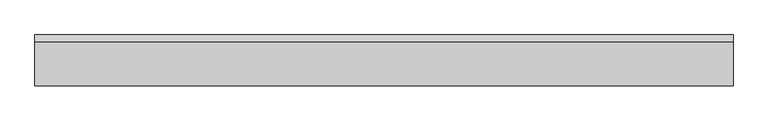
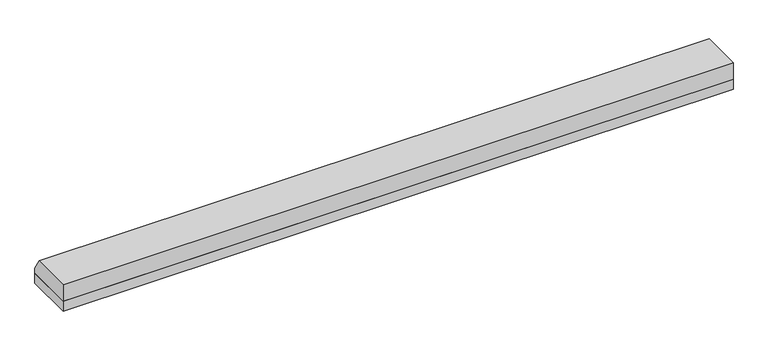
"""IFC4 building model written with IfcOpenShell, lengths in millimetres: proxy geometry, Spinneybeck_ARO Plank 7 : A - 5’-6”  x 3 1/2” x 1 1/4”."""

import ifcopenshell
import ifcopenshell.guid

model = None  # the IFC model being written
_history = None  # IfcOwnerHistory: only IFC2X3 demands one
_inside = {}  # id of a spatial element -> (the spatial element, [elements in it])
_under = {}  # id of a project, library or spatial element -> (it, [spatial elements below it])
_declared = {}  # id of a project -> (the project, [libraries it declares])
_typed = {}  # id of a type object -> (the type object, [elements of that type])
_made_of = {}  # id of a material, layer set ... -> (it, [elements and type objects made of it])


def new_model(schema):
    """Start an empty IFC model of exactly this schema.

    Asked for "IFC4X3", IfcOpenShell would pick the latest addendum, in which some entities
    have other attributes; the version numbers below select the first issue.
    IFC2X3 requires an IfcOwnerHistory on every rooted entity: one is made here for all.
    """
    global model, _history
    if schema == "IFC4X3":
        model = ifcopenshell.file(schema_version=(4, 3, 0, 0))
    else:
        model = ifcopenshell.file(schema=schema)
    _inside.clear()
    _under.clear()
    _declared.clear()
    _typed.clear()
    _made_of.clear()
    _history = None
    if model.schema == "IFC2X3":
        org = make("IfcOrganization", Name="unknown")
        user = make(
            "IfcPersonAndOrganization",
            ThePerson=make("IfcPerson", FamilyName="unknown"),
            TheOrganization=org,
        )
        app = make(
            "IfcApplication",
            ApplicationDeveloper=org,
            Version="unknown",
            ApplicationFullName="unknown",
            ApplicationIdentifier="unknown",
        )
        _history = make(
            "IfcOwnerHistory",
            OwningUser=user,
            OwningApplication=app,
            ChangeAction="ADDED",
            CreationDate=0,
        )
    return model


def make(cls, **values):
    """One entity of the class cls with the attributes given. An attribute that is None is left unset."""
    return model.create_entity(
        cls, **{name: value for name, value in values.items() if value is not None}
    )


def rooted(cls, **values):
    """An entity with a GlobalId (a new one), such as an element, a storey or a relation."""
    return make(cls, GlobalId=ifcopenshell.guid.new(), OwnerHistory=_history, **values)


def si_unit(unit_type, name, prefix=None):
    """IfcSIUnit, for example si_unit("LENGTHUNIT", "METRE", prefix="MILLI")."""
    return make("IfcSIUnit", UnitType=unit_type, Prefix=prefix, Name=name)


def assignment(units):
    """IfcUnitAssignment: the units of a project."""
    return None if units is None else make("IfcUnitAssignment", Units=units)


def point(xyz):
    """IfcCartesianPoint."""
    return None if xyz is None else make("IfcCartesianPoint", Coordinates=xyz)


def direction(xyz):
    """IfcDirection."""
    return None if xyz is None else make("IfcDirection", DirectionRatios=xyz)


def frame(location, z_axis=None, x_axis=None):
    """IfcAxis2Placement3D, a coordinate frame: its origin and axes. An axis left out is left unset."""
    return make(
        "IfcAxis2Placement3D",
        Location=point(location),
        Axis=direction(z_axis),
        RefDirection=direction(x_axis),
    )


def origin():
    """The frame at (0, 0, 0) with its axes left unset."""
    return frame((0.0, 0.0, 0.0))


def origin_with_axes():
    """The frame at (0, 0, 0) with the z axis (0, 0, 1) and the x axis (1, 0, 0) written out."""
    return frame((0.0, 0.0, 0.0), z_axis=(0.0, 0.0, 1.0), x_axis=(1.0, 0.0, 0.0))


def place(relative_to, where):
    """IfcLocalPlacement: puts the frame where relative to a parent placement (None: the world)."""
    return make(
        "IfcLocalPlacement", PlacementRelTo=relative_to, RelativePlacement=where
    )


def context(
    kind, dimensions, precision=None, world=None, true_north=None, identifier=None
):
    """IfcGeometricRepresentationContext, for example the 3D "Model" context."""
    return make(
        "IfcGeometricRepresentationContext",
        ContextIdentifier=identifier,
        ContextType=kind,
        CoordinateSpaceDimension=dimensions,
        Precision=precision,
        WorldCoordinateSystem=world,
        TrueNorth=true_north,
    )


def project(units=None, contexts=None):
    """IfcProject with its units and contexts."""
    return rooted(
        "IfcProject",
        Name="project",
        RepresentationContexts=contexts,
        UnitsInContext=assignment(units),
    )


def spatial(cls, under=None, at=None, **own):
    """A site, building, storey or space (cls), placed at a placement, below another one or the project."""
    s = rooted(cls, ObjectPlacement=at, **own)
    if under is not None:
        _under.setdefault(under.id(), (under, []))[1].append(s)
    return s


def polyline(points):
    """IfcPolyline through the points."""
    return make("IfcPolyline", Points=[point(p) for p in points])


def outline(outer, holes=None, kind="AREA"):
    """IfcArbitraryClosedProfileDef: a profile drawn as a closed curve; with holes, ...WithVoids."""
    if holes is None:
        return make("IfcArbitraryClosedProfileDef", ProfileType=kind, OuterCurve=outer)
    return make(
        "IfcArbitraryProfileDefWithVoids",
        ProfileType=kind,
        OuterCurve=outer,
        InnerCurves=holes,
    )


def extrude(swept, where, along, depth):
    """IfcExtrudedAreaSolid: the profile swept, set in the frame where, extruded along a direction by depth."""
    return make(
        "IfcExtrudedAreaSolid",
        SweptArea=swept,
        Position=where,
        ExtrudedDirection=direction(along),
        Depth=depth,
    )


def shape(context_of_items, identifier, shape_type, items):
    """IfcShapeRepresentation: the items that make up one representation, for example the "Body"."""
    return make(
        "IfcShapeRepresentation",
        ContextOfItems=context_of_items,
        RepresentationIdentifier=identifier,
        RepresentationType=shape_type,
        Items=items,
    )


def source(mapping_origin, context_of_items, identifier, shape_type, items):
    """IfcRepresentationMap: a shape defined once, which mapped items show again and again."""
    return make(
        "IfcRepresentationMap",
        MappingOrigin=mapping_origin,
        MappedRepresentation=shape(context_of_items, identifier, shape_type, items),
    )


def transform(
    local_origin,
    x_axis=None,
    y_axis=None,
    z_axis=None,
    scale=None,
    scale2=None,
    scale3=None,
    uniform=True,
):
    """IfcCartesianTransformationOperator3D, or its non-uniform kind. x_axis, y_axis, z_axis: its Axis1, 2, 3."""
    if uniform:
        return make(
            "IfcCartesianTransformationOperator3D",
            Axis1=direction(x_axis),
            Axis2=direction(y_axis),
            LocalOrigin=point(local_origin),
            Scale=scale,
            Axis3=direction(z_axis),
        )
    return make(
        "IfcCartesianTransformationOperator3DnonUniform",
        Axis1=direction(x_axis),
        Axis2=direction(y_axis),
        LocalOrigin=point(local_origin),
        Scale=scale,
        Axis3=direction(z_axis),
        Scale2=scale2,
        Scale3=scale3,
    )


def mapped(mapping_source, mapping_target):
    """IfcMappedItem: shows the shape of a source again, moved by a transform."""
    return make(
        "IfcMappedItem", MappingSource=mapping_source, MappingTarget=mapping_target
    )


def made_of(thing, what):
    """Note that an element or type object is made of a material, layer set ...; save() writes the relation."""
    if what is not None:
        _made_of.setdefault(what.id(), (what, []))[1].append(thing)
    return thing


def element(
    cls,
    number,
    at=None,
    inside=None,
    cuts=None,
    type_object=None,
    material=None,
    context=None,
    identifier="Body",
    shape_type=None,
    held_by="IfcProductDefinitionShape",
    body=None,
    shapes=None,
    **own,
):
    """One element of the class cls, such as IfcWall. Its Tag is "e" and its number.

    at: its placement. inside: the storey or other place that contains it. cuts: it is an
    opening in that element (IfcRelVoidsElement). A single representation is given by context,
    identifier, shape_type and body (its items); several are given by shapes. held_by: the class
    of the entity that holds the representations. save() writes the other relations.
    """
    e = rooted(cls, Tag="e%d" % number, ObjectPlacement=at, **own)
    if body is not None:
        shapes = [shape(context, identifier, shape_type, body)]
    if shapes is not None:
        e.Representation = make(held_by, Representations=shapes)
    if inside is not None:
        _inside.setdefault(inside.id(), (inside, []))[1].append(e)
    if cuts is not None:
        rooted(
            "IfcRelVoidsElement", RelatingBuildingElement=cuts, RelatedOpeningElement=e
        )
    if type_object is not None:
        _typed.setdefault(type_object.id(), (type_object, []))[1].append(e)
    return made_of(e, material)


def aggregate(whole, parts):
    """IfcRelAggregates: a whole, such as a stair, and the parts it consists of."""
    return rooted("IfcRelAggregates", RelatingObject=whole, RelatedObjects=parts)


def save(model, path):
    """Write the relations noted so far, then the file.

    IfcRelAggregates (storeys below a building ...), IfcRelContainedInSpatialStructure (elements
    in a storey), IfcRelDefinesByType, IfcRelAssociatesMaterial and IfcRelDeclares: one each for
    every whole, place, type object, material and project.
    """
    for whole, parts in _under.values():
        aggregate(whole, parts)
    for where, things in _inside.values():
        rooted(
            "IfcRelContainedInSpatialStructure",
            RelatedElements=things,
            RelatingStructure=where,
        )
    for kind, things in _typed.values():
        rooted("IfcRelDefinesByType", RelatedObjects=things, RelatingType=kind)
    for what, things in _made_of.values():
        rooted("IfcRelAssociatesMaterial", RelatedObjects=things, RelatingMaterial=what)
    for by, libraries in _declared.values():
        rooted("IfcRelDeclares", RelatingContext=by, RelatedDefinitions=libraries)
    model.write(path)


def specialty_equipment_79064f35(model_context):
    return source(origin(), model_context, "Body", "SweptSolid", [
        extrude(outline(polyline([(44.45, 19.05), (-44.45, 19.05), (-44.45, 50.8), (31.4559581, 50.8), (44.45, 28.2936592), (44.45, 19.05)])), frame((-611.9576027, 0.0, 0.0), z_axis=(1.0, 0.0, 0.0), x_axis=(0.0, 1.0, 0.0)), (0.0, 0.0, 1.0), 1223.9152054),
        extrude(outline(polyline([(-611.9576027, -44.45), (-611.9576027, 44.45), (611.9576027, 44.45), (611.9576027, -44.45), (-611.9576027, -44.45)])), origin_with_axes(), (0.0, 0.0, 1.0), 19.05),
    ])


if __name__ == "__main__":
    model = new_model("IFC4")
    model_context = context("Model", 3, world=origin())
    ifc_project = project(units=[si_unit("LENGTHUNIT", "METRE", prefix="MILLI")], contexts=[model_context])
    site = spatial("IfcSite", under=ifc_project)
    building = spatial("IfcBuilding", under=site)
    placement = place(None, origin())
    specialty_equipment_shape = specialty_equipment_79064f35(model_context)
    element("IfcBuildingElementProxy", 1, Name="Spinneybeck_ARO Plank 7 : A - 5’-6”  x 3 1/2” x 1 1/4”", ObjectType="Spinneybeck_ARO Plank 7 : A - 5’-6”  x 3 1/2” x 1 1/4”", at=placement, inside=building, context=model_context, shape_type="MappedRepresentation", body=[
        mapped(specialty_equipment_shape, transform((0.0, 0.0, 0.0), x_axis=(1.0, 0.0, 0.0), y_axis=(0.0, 1.0, 0.0), z_axis=(0.0, 0.0, 1.0))),
    ])
    save(model, "model.ifc")
